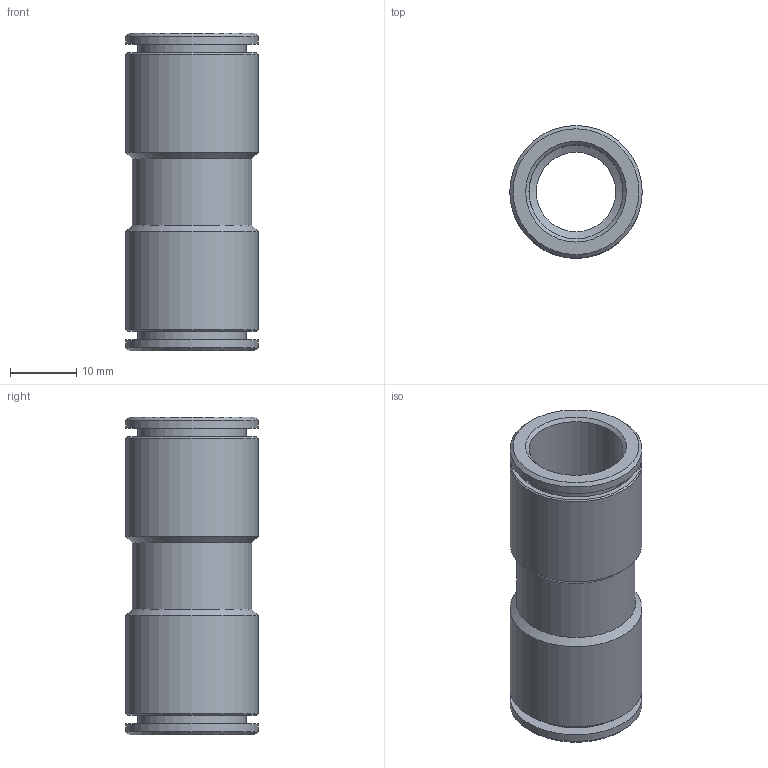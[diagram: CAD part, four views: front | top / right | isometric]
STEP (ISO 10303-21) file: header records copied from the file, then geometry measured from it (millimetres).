
FILE_DESCRIPTION(/* description */ (''),/* implementation_level */ '2;1');
FILE_NAME(/* name */ 'V200307_IPSO_03_14_06.09.16',/* time_stamp */ '2016-09-06T11:23:28+02:00',/* author */ (''),/* organization */ (''),/* preprocessor_version */ 'ST-DEVELOPER v16.5',/* originating_system */ 'HiCAD 2016 2101.0 Build 254',/* authorisation */ '');
FILE_SCHEMA (('AUTOMOTIVE_DESIGN { 1 0 10303 214 1 1 1 1 }'));
Length unit declared in the file: millimetre
Products named in the file (4): Root; R200307; DR14
Assembly tree (3 placements, depth 2):
  Root
    R200307
    DR14
    DR14
Bounding box: 20 x 20 x 48 mm (x, y, z)
Volume: 5396.4 mm3; surface area: 8276.4 mm2
Topology: 3 solids, 3 shells, 46 faces, 86 edges, 52 vertices
Faces by surface type: cylinder 18, cone 16, plane 12
Full cylindrical faces by diameter (mm): 12 x1, 14.15 x2, 14.2 x2, 15.3 x2, 16.4 x2, 16.5 x2, 18 x1, 18.1 x2, 20 x4
Entity records: 1478 total; most frequent: DIRECTION 196, CARTESIAN_POINT 144, AXIS2_PLACEMENT_3D 98, PRESENTATION_STYLE_ASSIGNMENT 95, COLOUR_RGB 93, DRAUGHTING_PRE_DEFINED_CURVE_FONT 92, CURVE_STYLE 92, OVER_RIDING_STYLED_ITEM 92
